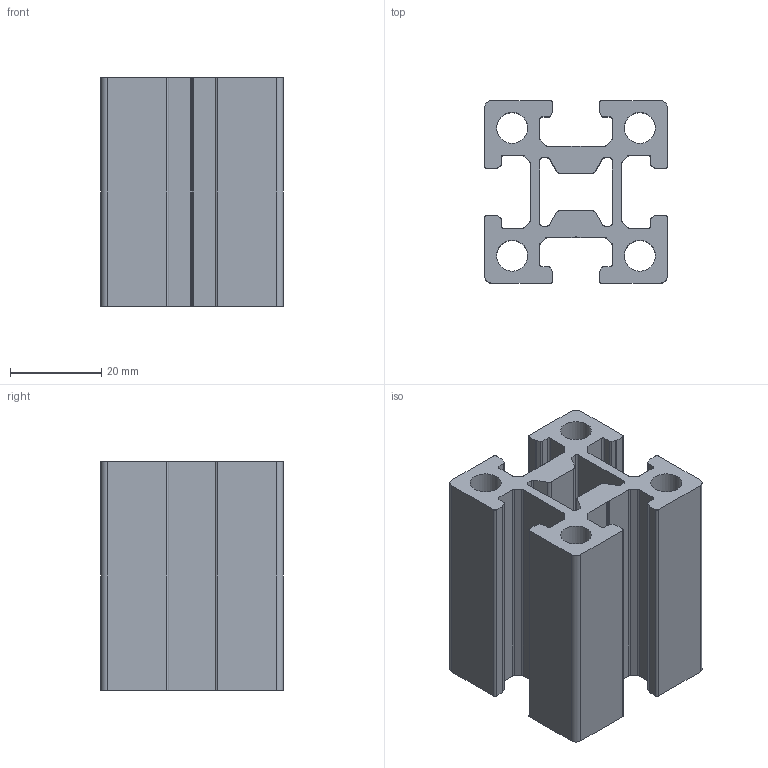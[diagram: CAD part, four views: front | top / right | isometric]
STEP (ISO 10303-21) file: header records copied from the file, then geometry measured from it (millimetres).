
FILE_DESCRIPTION(('STEP AP214'),'1');
FILE_NAME('F44MB-.stp','2017-07-21T04:12:49',(' '),(' '),'Spatial InterOp 3D',' ',' ');
FILE_SCHEMA(('automotive_design'));
Length unit declared in the file: millimetre
Products named in the file (1): F44MB-
Bounding box: 40 x 40 x 50 mm (x, y, z)
Volume: 36653.3 mm3; surface area: 22582.7 mm2
Topology: 1 solids, 1 shells, 146 faces, 432 edges, 288 vertices
Faces by surface type: cylinder 74, plane 72
Full cylindrical faces by diameter (mm): 6.8 x4
Entity records: 6108 total; most frequent: DIRECTION 870, CARTESIAN_POINT 863, ORIENTED_EDGE 856, EDGE_CURVE 428, AXIS2_PLACEMENT_3D 295, VERTEX_POINT 288, LINE 280, VECTOR 280
